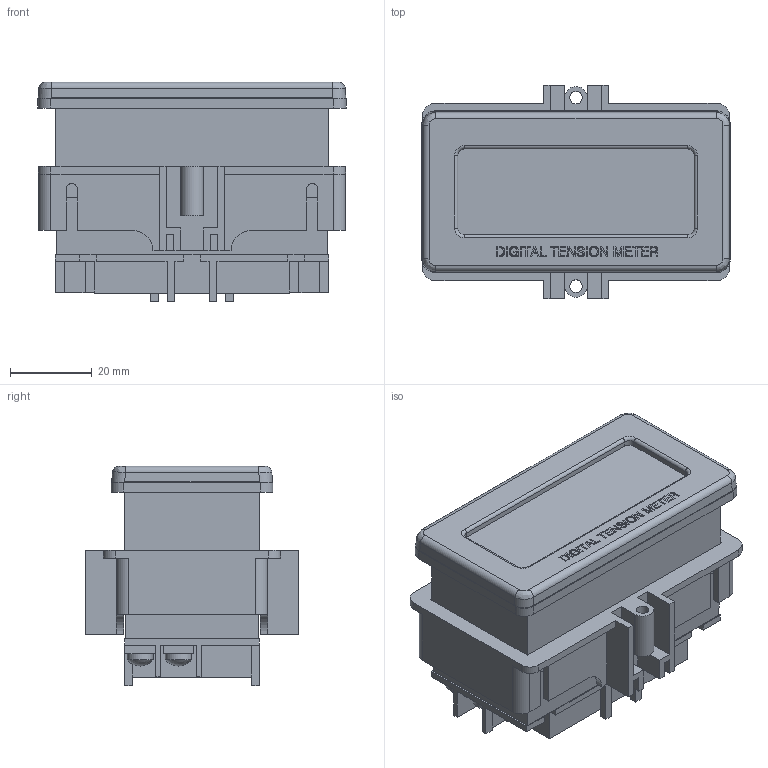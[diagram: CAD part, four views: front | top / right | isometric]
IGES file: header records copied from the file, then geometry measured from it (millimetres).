
Global section: file name: No Iges File Name specified; native system: Autodesk Inventor 2012; preprocessor: AutoDesk Inventor Iges Exporter R2012; author: JReyes; date: 20130129.093050; units: inch
Bounding box: 75.23 x 52.12 x 53.53 mm (x, y, z)
Volume: 115583.2 mm3; surface area: 29640.4 mm2
Topology: 2 solids, 2 shells, 542 faces, 1475 edges, 969 vertices
Faces by surface type: plane 428, bspline 62, cylinder 26, revolution 18, sphere 4, torus 4
Full cylindrical faces by diameter (mm): 6.35 x4
